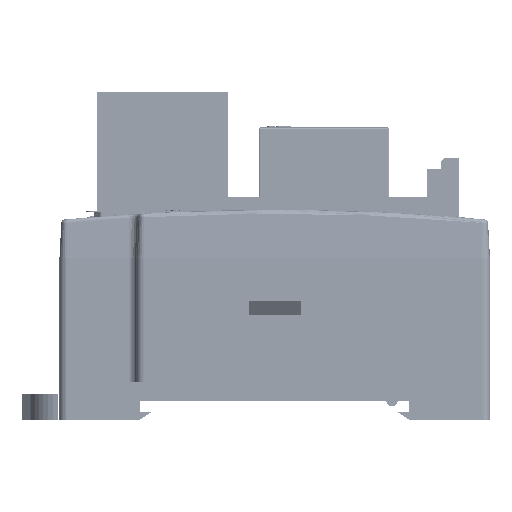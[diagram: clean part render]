
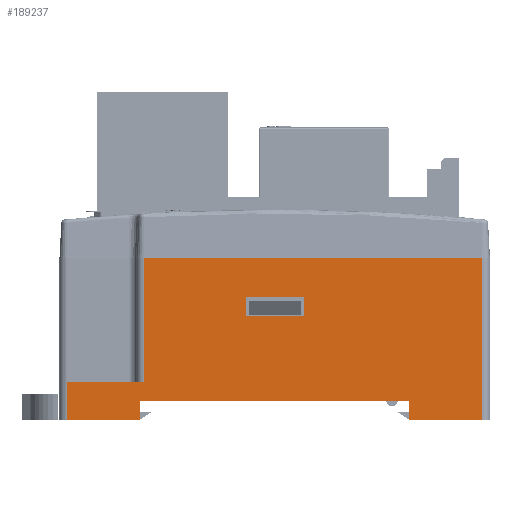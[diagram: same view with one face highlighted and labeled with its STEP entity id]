
A CAD part, front view. The second image highlights one B-rep face of the part: STEP entity #189237.
In plain terms, the highlighted planar face has unit normal (0, -1, 0).
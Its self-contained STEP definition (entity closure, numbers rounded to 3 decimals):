
#12484=DIRECTION('',(0.,0.,-1.));
#12485=VECTOR('',#12484,21.);
#12486=CARTESIAN_POINT('',(27.,-85.,0.));
#12487=LINE('',#12486,#12485);
#12544=DIRECTION('',(0.,0.,-1.));
#12545=VECTOR('',#12544,2.5);
#12546=CARTESIAN_POINT('',(17.5,-85.,-18.5));
#12547=LINE('',#12546,#12545);
#13139=DIRECTION('',(0.,0.,1.));
#13140=VECTOR('',#13139,16.1);
#13141=CARTESIAN_POINT('',(-17.,-85.,-16.1));
#13142=LINE('',#13141,#13140);
#13147=DIRECTION('',(1.,0.,0.));
#13148=VECTOR('',#13147,9.5);
#13149=CARTESIAN_POINT('',(17.5,-85.,-21.));
#13150=LINE('',#13149,#13148);
#13151=DIRECTION('',(1.,0.,0.));
#13152=VECTOR('',#13151,9.5);
#13153=CARTESIAN_POINT('',(-27.,-85.,-21.));
#13154=LINE('',#13153,#13152);
#13159=DIRECTION('',(0.,0.,1.));
#13160=VECTOR('',#13159,2.5);
#13161=CARTESIAN_POINT('',(-3.75,-85.,-7.5));
#13162=LINE('',#13161,#13160);
#13231=DIRECTION('',(1.,0.,0.));
#13232=VECTOR('',#13231,7.5);
#13233=CARTESIAN_POINT('',(-3.75,-85.,-5.));
#13234=LINE('',#13233,#13232);
#13380=DIRECTION('',(0.,0.,-1.));
#13381=VECTOR('',#13380,2.5);
#13382=CARTESIAN_POINT('',(3.75,-85.,-5.));
#13383=LINE('',#13382,#13381);
#13388=DIRECTION('',(-1.,0.,0.));
#13389=VECTOR('',#13388,7.5);
#13390=CARTESIAN_POINT('',(3.75,-85.,-7.5));
#13391=LINE('',#13390,#13389);
#13396=DIRECTION('',(-1.,0.,0.));
#13397=VECTOR('',#13396,35.);
#13398=CARTESIAN_POINT('',(17.5,-85.,-18.5));
#13399=LINE('',#13398,#13397);
#13404=DIRECTION('',(0.,0.,1.));
#13405=VECTOR('',#13404,2.5);
#13406=CARTESIAN_POINT('',(-17.5,-85.,-21.));
#13407=LINE('',#13406,#13405);
#62153=DIRECTION('',(1.,0.,0.));
#62154=VECTOR('',#62153,10.);
#62155=CARTESIAN_POINT('',(-27.,-85.,-16.1));
#62156=LINE('',#62155,#62154);
#62190=DIRECTION('',(0.,0.,1.));
#62191=VECTOR('',#62190,4.9);
#62192=CARTESIAN_POINT('',(-27.,-85.,-21.));
#62193=LINE('',#62192,#62191);
#62283=DIRECTION('',(1.,0.,0.));
#62284=VECTOR('',#62283,44.);
#62285=CARTESIAN_POINT('',(-17.,-85.,0.));
#62286=LINE('',#62285,#62284);
#165804=CARTESIAN_POINT('',(-17.5,-85.,-21.));
#165805=VERTEX_POINT('',#165804);
#165806=CARTESIAN_POINT('',(-27.,-85.,-21.));
#165807=VERTEX_POINT('',#165806);
#165834=CARTESIAN_POINT('',(27.,-85.,-21.));
#165835=VERTEX_POINT('',#165834);
#165836=CARTESIAN_POINT('',(17.5,-85.,-21.));
#165837=VERTEX_POINT('',#165836);
#165906=CARTESIAN_POINT('',(17.5,-85.,-18.5));
#165907=CARTESIAN_POINT('',(-17.5,-85.,-18.5));
#165908=VERTEX_POINT('',#165906);
#165909=VERTEX_POINT('',#165907);
#165910=CARTESIAN_POINT('',(-27.,-85.,-16.1));
#165911=VERTEX_POINT('',#165910);
#165912=CARTESIAN_POINT('',(-17.,-85.,-16.1));
#165913=VERTEX_POINT('',#165912);
#165914=CARTESIAN_POINT('',(-3.75,-85.,-7.5));
#165915=CARTESIAN_POINT('',(-3.75,-85.,-5.));
#165916=VERTEX_POINT('',#165914);
#165917=VERTEX_POINT('',#165915);
#165918=CARTESIAN_POINT('',(3.75,-85.,-7.5));
#165919=VERTEX_POINT('',#165918);
#165920=CARTESIAN_POINT('',(3.75,-85.,-5.));
#165921=VERTEX_POINT('',#165920);
#173129=CARTESIAN_POINT('',(-17.,-85.,0.));
#173130=CARTESIAN_POINT('',(27.,-85.,0.));
#173131=VERTEX_POINT('',#173129);
#173132=VERTEX_POINT('',#173130);
#189204=CARTESIAN_POINT('',(0.,-85.,-10.5));
#189205=DIRECTION('',(0.,1.,0.));
#189206=DIRECTION('',(1.,0.,0.));
#189207=AXIS2_PLACEMENT_3D('',#189204,#189205,#189206);
#189208=PLANE('',#189207);
#189209=ORIENTED_EDGE('',*,*,#188015,.T.);
#189210=ORIENTED_EDGE('',*,*,#188036,.F.);
#189211=ORIENTED_EDGE('',*,*,#188134,.F.);
#189213=ORIENTED_EDGE('',*,*,#189212,.T.);
#189215=ORIENTED_EDGE('',*,*,#189214,.F.);
#189217=ORIENTED_EDGE('',*,*,#189216,.F.);
#189219=ORIENTED_EDGE('',*,*,#189218,.T.);
#189221=ORIENTED_EDGE('',*,*,#189220,.T.);
#189222=ORIENTED_EDGE('',*,*,#189188,.T.);
#189224=ORIENTED_EDGE('',*,*,#189223,.T.);
#189225=EDGE_LOOP('',(#189209,#189210,#189211,#189213,#189215,#189217,#189219,
#189221,#189222,#189224));
#189226=FACE_OUTER_BOUND('',#189225,.F.);
#189228=ORIENTED_EDGE('',*,*,#189227,.F.);
#189230=ORIENTED_EDGE('',*,*,#189229,.F.);
#189232=ORIENTED_EDGE('',*,*,#189231,.F.);
#189234=ORIENTED_EDGE('',*,*,#189233,.F.);
#189235=EDGE_LOOP('',(#189228,#189230,#189232,#189234));
#189236=FACE_BOUND('',#189235,.F.);
#189237=ADVANCED_FACE('',(#189226,#189236),#189208,.F.);
#188015=EDGE_CURVE('',#173132,#165835,#12487,.T.);
#188036=EDGE_CURVE('',#165837,#165835,#13150,.T.);
#188134=EDGE_CURVE('',#165908,#165837,#12547,.T.);
#189188=EDGE_CURVE('',#165913,#173131,#13142,.T.);
#189212=EDGE_CURVE('',#165908,#165909,#13399,.T.);
#189214=EDGE_CURVE('',#165805,#165909,#13407,.T.);
#189216=EDGE_CURVE('',#165807,#165805,#13154,.T.);
#189218=EDGE_CURVE('',#165807,#165911,#62193,.T.);
#189220=EDGE_CURVE('',#165911,#165913,#62156,.T.);
#189223=EDGE_CURVE('',#173131,#173132,#62286,.T.);
#189227=EDGE_CURVE('',#165916,#165917,#13162,.T.);
#189229=EDGE_CURVE('',#165919,#165916,#13391,.T.);
#189231=EDGE_CURVE('',#165921,#165919,#13383,.T.);
#189233=EDGE_CURVE('',#165917,#165921,#13234,.T.);
